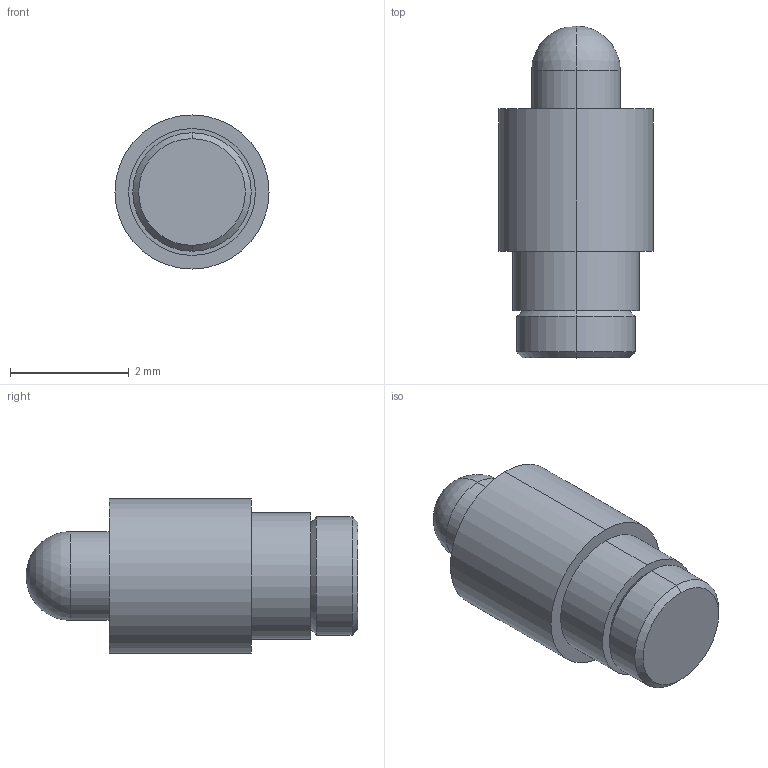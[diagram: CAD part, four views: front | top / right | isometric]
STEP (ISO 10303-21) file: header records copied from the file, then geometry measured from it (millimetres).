
FILE_DESCRIPTION((''),'2;1');
FILE_NAME('PRT0001','2023-05-26T14:57:36',('USER'),(''),'CREO PARAMETRIC BY PTC INC, 2020154','CREO PARAMETRIC BY PTC INC, 2020154','');
FILE_SCHEMA(('CONFIG_CONTROL_DESIGN'));
Length unit declared in the file: millimetre
Products named in the file (1): PRT0001
Bounding box: 2.6 x 5.6 x 2.6 mm (x, y, z)
Volume: 20.8 mm3; surface area: 47.2 mm2
Topology: 1 solids, 1 shells, 18 faces, 36 edges, 21 vertices
Faces by surface type: cylinder 8, plane 4, cone 4, sphere 2
Entity records: 498 total; most frequent: DIRECTION 92, CARTESIAN_POINT 73, ORIENTED_EDGE 68, AXIS2_PLACEMENT_3D 40, EDGE_CURVE 34, CIRCLE 22, VERTEX_POINT 21, EDGE_LOOP 21
